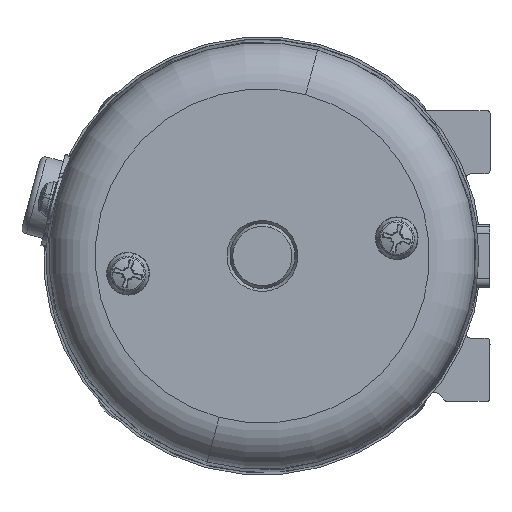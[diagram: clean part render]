
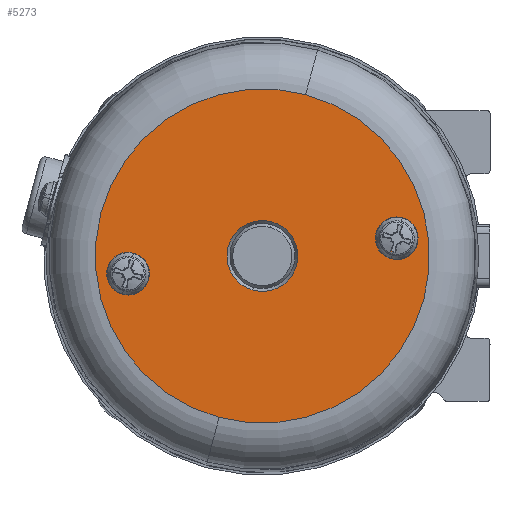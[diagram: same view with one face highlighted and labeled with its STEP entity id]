
A CAD part, left-side view. The second image highlights one B-rep face of the part: STEP entity #5273.
In plain terms, the highlighted planar face has unit normal (-1, 0, 0).
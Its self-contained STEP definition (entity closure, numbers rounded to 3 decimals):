
#344 = CARTESIAN_POINT ( 'NONE',  ( -135.043, 38.388, 6.016 ) ) ;
#398 = VERTEX_POINT ( 'NONE', #23815 ) ;
#986 = VERTEX_POINT ( 'NONE', #344 ) ;
#1485 = CARTESIAN_POINT ( 'NONE',  ( -135.043, 18.477, 3.667 ) ) ;
#1587 = DIRECTION ( 'NONE',  ( 0., 0.966, 0.259 ) ) ;
#1714 = DIRECTION ( 'NONE',  ( 1., 0., 0. ) ) ;
#1741 = CARTESIAN_POINT ( 'NONE',  ( -135.043, 40., 0. ) ) ;
#1794 = AXIS2_PLACEMENT_3D ( 'NONE', #1741, #15619, #1587 ) ;
#3030 = ORIENTED_EDGE ( 'NONE', *, *, #9814, .T. ) ;
#3442 = CIRCLE ( 'NONE', #24453, 2.159 ) ;
#3759 = AXIS2_PLACEMENT_3D ( 'NONE', #26932, #23866, #7470 ) ;
#4294 = EDGE_LOOP ( 'NONE', ( #12330, #20564 ) ) ;
#4330 = EDGE_LOOP ( 'NONE', ( #22817, #17232 ) ) ;
#5273 = ADVANCED_FACE ( 'NONE', ( #11583, #20924, #11415, #21062 ), #16444, .T. ) ;
#5644 = AXIS2_PLACEMENT_3D ( 'NONE', #24840, #10587, #19190 ) ;
#6432 = DIRECTION ( 'NONE',  ( 1., 0., 0. ) ) ;
#7188 = EDGE_LOOP ( 'NONE', ( #22051, #3030 ) ) ;
#7470 = DIRECTION ( 'NONE',  ( 0., 0.966, 0.259 ) ) ;
#7790 = DIRECTION ( 'NONE',  ( 0., 0.966, 0.259 ) ) ;
#8263 = VERTEX_POINT ( 'NONE', #26567 ) ;
#8698 = CARTESIAN_POINT ( 'NONE',  ( -135.043, 61.523, -3.667 ) ) ;
#8726 = CARTESIAN_POINT ( 'NONE',  ( -135.043, 40., 0. ) ) ;
#9117 = CARTESIAN_POINT ( 'NONE',  ( -135.043, 14.306, 2.549 ) ) ;
#9411 = EDGE_CURVE ( 'NONE', #28336, #24710, #21791, .T. ) ;
#9814 = EDGE_CURVE ( 'NONE', #23499, #11229, #27167, .T. ) ;
#10067 = DIRECTION ( 'NONE',  ( 1., 0., 0. ) ) ;
#10587 = DIRECTION ( 'NONE',  ( -1., 0., 0. ) ) ;
#11229 = VERTEX_POINT ( 'NONE', #1485 ) ;
#11243 = ORIENTED_EDGE ( 'NONE', *, *, #17143, .T. ) ;
#11415 = FACE_OUTER_BOUND ( 'NONE', #4294, .T. ) ;
#11583 = FACE_BOUND ( 'NONE', #7188, .T. ) ;
#12051 = CIRCLE ( 'NONE', #1794, 6.228 ) ;
#12330 = ORIENTED_EDGE ( 'NONE', *, *, #18075, .F. ) ;
#13172 = VERTEX_POINT ( 'NONE', #22883 ) ;
#13646 = AXIS2_PLACEMENT_3D ( 'NONE', #15893, #27243, #25271 ) ;
#13924 = DIRECTION ( 'NONE',  ( 1., 0., 0. ) ) ;
#14248 = DIRECTION ( 'NONE',  ( 1., 0., 0. ) ) ;
#15039 = AXIS2_PLACEMENT_3D ( 'NONE', #21267, #10067, #7790 ) ;
#15619 = DIRECTION ( 'NONE',  ( 1., 0., 0. ) ) ;
#15893 = CARTESIAN_POINT ( 'NONE',  ( -135.043, 63.609, -3.108 ) ) ;
#16048 = CARTESIAN_POINT ( 'NONE',  ( -135.043, 16.391, 3.108 ) ) ;
#16444 = PLANE ( 'NONE',  #5644 ) ;
#17143 = EDGE_CURVE ( 'NONE', #986, #8263, #28227, .T. ) ;
#17232 = ORIENTED_EDGE ( 'NONE', *, *, #9411, .T. ) ;
#18075 = EDGE_CURVE ( 'NONE', #398, #13172, #23384, .T. ) ;
#18295 = EDGE_CURVE ( 'NONE', #13172, #398, #28198, .T. ) ;
#19190 = DIRECTION ( 'NONE',  ( 0., 0.966, 0.259 ) ) ;
#19285 = DIRECTION ( 'NONE',  ( 0., 0.259, -0.966 ) ) ;
#19512 = EDGE_CURVE ( 'NONE', #24710, #28336, #20995, .T. ) ;
#19845 = CARTESIAN_POINT ( 'NONE',  ( -135.043, 65.694, -2.549 ) ) ;
#20365 = AXIS2_PLACEMENT_3D ( 'NONE', #21592, #14248, #19285 ) ;
#20514 = DIRECTION ( 'NONE',  ( 0., 0.966, 0.259 ) ) ;
#20564 = ORIENTED_EDGE ( 'NONE', *, *, #18295, .F. ) ;
#20659 = ORIENTED_EDGE ( 'NONE', *, *, #27276, .T. ) ;
#20667 = DIRECTION ( 'NONE',  ( 0., 0.966, 0.259 ) ) ;
#20924 = FACE_BOUND ( 'NONE', #4330, .T. ) ;
#20995 = CIRCLE ( 'NONE', #13646, 2.159 ) ;
#21062 = FACE_BOUND ( 'NONE', #23185, .T. ) ;
#21267 = CARTESIAN_POINT ( 'NONE',  ( -135.043, 40., 0. ) ) ;
#21393 = AXIS2_PLACEMENT_3D ( 'NONE', #8726, #6432, #25116 ) ;
#21592 = CARTESIAN_POINT ( 'NONE',  ( -135.043, 40., 0. ) ) ;
#21791 = CIRCLE ( 'NONE', #3759, 2.159 ) ;
#22051 = ORIENTED_EDGE ( 'NONE', *, *, #22304, .T. ) ;
#22304 = EDGE_CURVE ( 'NONE', #11229, #23499, #3442, .T. ) ;
#22817 = ORIENTED_EDGE ( 'NONE', *, *, #19512, .T. ) ;
#22883 = CARTESIAN_POINT ( 'NONE',  ( -135.043, 32.398, 28.37 ) ) ;
#23185 = EDGE_LOOP ( 'NONE', ( #20659, #11243 ) ) ;
#23384 = CIRCLE ( 'NONE', #20365, 29.371 ) ;
#23499 = VERTEX_POINT ( 'NONE', #9117 ) ;
#23815 = CARTESIAN_POINT ( 'NONE',  ( -135.043, 47.602, -28.37 ) ) ;
#23866 = DIRECTION ( 'NONE',  ( 1., 0., 0. ) ) ;
#24453 = AXIS2_PLACEMENT_3D ( 'NONE', #16048, #13924, #20514 ) ;
#24710 = VERTEX_POINT ( 'NONE', #19845 ) ;
#24840 = CARTESIAN_POINT ( 'NONE',  ( -135.043, 44.607, -17.193 ) ) ;
#25116 = DIRECTION ( 'NONE',  ( 0., 0.259, -0.966 ) ) ;
#25271 = DIRECTION ( 'NONE',  ( 0., 0.966, 0.259 ) ) ;
#25421 = CARTESIAN_POINT ( 'NONE',  ( -135.043, 16.391, 3.108 ) ) ;
#26567 = CARTESIAN_POINT ( 'NONE',  ( -135.043, 41.612, -6.016 ) ) ;
#26932 = CARTESIAN_POINT ( 'NONE',  ( -135.043, 63.609, -3.108 ) ) ;
#27167 = CIRCLE ( 'NONE', #29092, 2.159 ) ;
#27243 = DIRECTION ( 'NONE',  ( 1., 0., 0. ) ) ;
#27276 = EDGE_CURVE ( 'NONE', #8263, #986, #12051, .T. ) ;
#28198 = CIRCLE ( 'NONE', #21393, 29.371 ) ;
#28227 = CIRCLE ( 'NONE', #15039, 6.228 ) ;
#28336 = VERTEX_POINT ( 'NONE', #8698 ) ;
#29092 = AXIS2_PLACEMENT_3D ( 'NONE', #25421, #1714, #20667 ) ;
